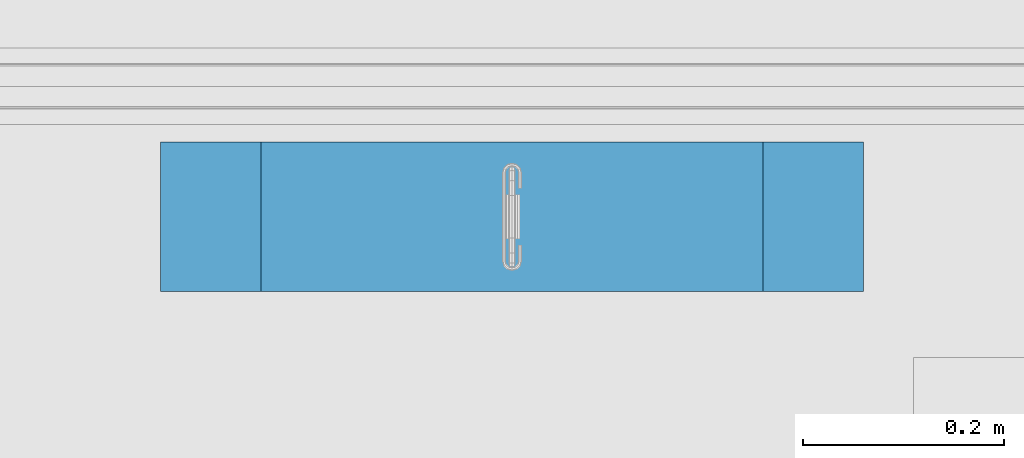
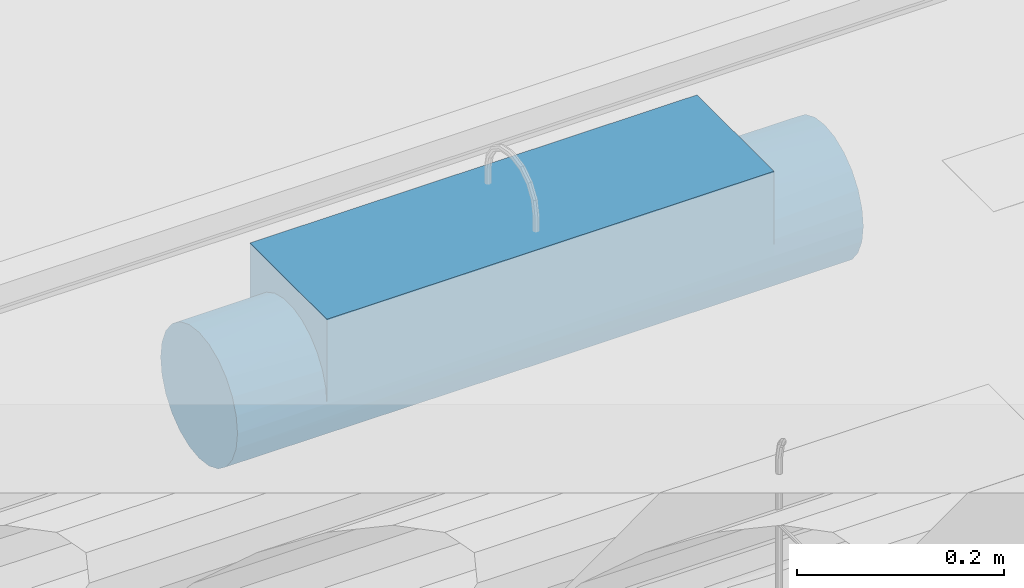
# One storey, part 198 of 230: 1 beam.
"""IFC4X3_ADD2 building model written with IfcOpenShell, lengths in millimetres."""

from ifc_helpers import new_model, si_unit, direction, origin_with_axes, place, context, subcontext, project, spatial, polygons, element, save


model = new_model("IFC4X3_ADD2")

# Units and contexts
model_context = context("Model", 3, precision=1e-05, world=origin_with_axes(), true_north=direction((0.0, 1.0)))
body_context = subcontext(model_context, "Body", "Model", "MODEL_VIEW")
ifc_project = project(units=[si_unit("LENGTHUNIT", "METRE", prefix="MILLI"), si_unit("AREAUNIT", "SQUARE_METRE"), si_unit("VOLUMEUNIT", "CUBIC_METRE"), si_unit("PLANEANGLEUNIT", "RADIAN"), si_unit("TIMEUNIT", "SECOND"), si_unit("MASSUNIT", "GRAM")], contexts=[model_context])

# Site, building, storey
site_placement = place(None, origin_with_axes())
site = spatial("IfcSite", under=ifc_project, at=site_placement, Name="Site", CompositionType="ELEMENT")
building_placement = place(site_placement, origin_with_axes())
building = spatial("IfcBuilding", under=site, at=building_placement, Name="IFC Building Story")
storey_placement = place(building_placement, origin_with_axes())
storey = spatial("IfcBuildingStorey", under=building, at=storey_placement, Name="ETAGE 00 (0)", Elevation=0.0)

# Beam
beam_placement = place(storey_placement, origin_with_axes())
element("IfcBeam", 1, at=beam_placement, inside=storey, Name="ES44", ObjectType="500*149", context=body_context, shape_type="Tessellation", body=[
    polygons([(38451.189, 14491.96237108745, 4119.282015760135), (38551.189, 14492.33606303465, 4117.829011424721), (38451.189, 14494.50089702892, 4099.999996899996), (38451.189, 14484.51978961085, 4137.249996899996), (38551.189, 14485.96737190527, 4134.621871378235), (38551.189, 14462.32172160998, 4161.312294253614), (38451.189, 14472.68035222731, 4152.679452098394), (38451.189, 14457.25089702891, 4164.518889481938), (38551.189, 14446.4189617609, 4169.658706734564), (38451.189, 14439.28291588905, 4171.961470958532), (38551.189, 14475.76494883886, 4149.402633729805), (38551.189, 14494.50089702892, 4099.999993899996), (38551.189, 14428.98087993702, 4173.956807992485), (38451.189, 14420.00089702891, 4174.499996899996), (38551.189, 14411.02091412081, 4173.956807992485), (38451.189, 14400.71887816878, 4171.961470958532), (38451.189, 14382.75089702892, 4164.518889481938), (38551.189, 14393.58283229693, 4169.658706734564), (38451.189, 14355.48200444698, 4137.249996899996), (38451.189, 14348.03942297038, 4119.282015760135), (38551.189, 14354.03442215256, 4134.621871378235), (38551.189, 14364.23684521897, 4149.402633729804), (38451.189, 14367.32144183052, 4152.679452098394), (38551.189, 14377.68007244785, 4161.312294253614), (38551.189, 14347.66573102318, 4117.829011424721), (38451.189, 14345.50089702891, 4099.999996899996), (38551.189, 14345.50089702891, 4099.999993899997), (38551.189, 14494.50089702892, 4199.999993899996), (38551.189, 14345.50089702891, 4199.999993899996), (39051.189, 14345.50089702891, 4199.999993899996), (39051.189, 14494.50089702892, 4199.999993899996), (39051.189, 14345.50089702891, 4099.999993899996), (39051.189, 14347.66573102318, 4117.829011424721), (39051.189, 14354.03442215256, 4134.621871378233), (39051.189, 14364.23684521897, 4149.402633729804), (39051.189, 14377.68007244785, 4161.312294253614), (39051.189, 14393.58283229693, 4169.658706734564), (39051.189, 14411.02091412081, 4173.956807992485), (39051.189, 14428.98087993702, 4173.956807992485), (39051.189, 14446.4189617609, 4169.658706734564), (39051.189, 14462.32172160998, 4161.312294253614), (39051.189, 14475.76494883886, 4149.402633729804), (39051.189, 14485.96737190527, 4134.621871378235), (39051.189, 14492.33606303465, 4117.829011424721), (39051.189, 14494.50089702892, 4099.999993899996), (39151.189, 14355.48200444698, 4062.749996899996), (39151.189, 14367.32144183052, 4047.320541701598), (39151.189, 14382.75089702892, 4035.481104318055), (39151.189, 14400.71887816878, 4028.038522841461), (39151.189, 14420.00089702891, 4025.499996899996), (39151.189, 14439.28291588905, 4028.038522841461), (39151.189, 14457.25089702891, 4035.481104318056), (39151.189, 14472.68035222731, 4047.320541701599), (39151.189, 14484.51978961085, 4062.749996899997), (39151.189, 14491.96237108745, 4080.717978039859), (39151.189, 14494.50089702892, 4099.999996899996), (39151.189, 14491.96237108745, 4119.282015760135), (39151.189, 14484.51978961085, 4137.249996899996), (39151.189, 14472.68035222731, 4152.679452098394), (39151.189, 14457.25089702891, 4164.518889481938), (39151.189, 14439.28291588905, 4171.961470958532), (39151.189, 14420.00089702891, 4174.499996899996), (39151.189, 14400.71887816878, 4171.961470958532), (39151.189, 14382.75089702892, 4164.518889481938), (39151.189, 14367.32144183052, 4152.679452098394), (39151.189, 14355.48200444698, 4137.249996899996), (39151.189, 14348.03942297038, 4119.282015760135), (39151.189, 14345.50089702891, 4099.999996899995), (39151.189, 14348.03942297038, 4080.717978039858), (38451.189, 14484.51978961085, 4062.749996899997), (38451.189, 14472.68035222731, 4047.320541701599), (38451.189, 14457.25089702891, 4035.481104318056), (38451.189, 14439.28291588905, 4028.038522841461), (38451.189, 14420.00089702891, 4025.499996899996), (38451.189, 14400.71887816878, 4028.038522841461), (38451.189, 14382.75089702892, 4035.481104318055), (38451.189, 14367.32144183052, 4047.320541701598), (38451.189, 14355.48200444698, 4062.749996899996), (38451.189, 14348.03942297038, 4080.717978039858), (38451.189, 14491.96237108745, 4080.717978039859), (38801.189, 14351.1718718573, 4071.490081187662), (38801.189, 14391.49098131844, 4031.170971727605), (38801.189, 14374.64817056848, 4040.895173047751), (38801.189, 14360.89607317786, 4054.647270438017), (38801.189, 14410.27669570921, 4026.137354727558), (38801.189, 14346.6842439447, 4086.774325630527), (38801.189, 14429.72509835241, 4026.137354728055), (38801.189, 14448.51081274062, 4031.170971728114), (38801.189, 14493.31755011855, 4086.774325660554), (38801.189, 14465.35362349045, 4040.895173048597), (38801.189, 14479.10572088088, 4054.647270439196), (38801.189, 14488.82992220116, 4071.490081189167)], [[[1, 2, 3]], [[4, 5, 1]], [[6, 7, 8]], [[9, 8, 10]], [[7, 11, 4]], [[1, 5, 2]], [[2, 12, 3]], [[6, 11, 7]], [[9, 6, 8]], [[10, 13, 9]], [[11, 5, 4]], [[10, 14, 13]], [[15, 14, 16]], [[17, 18, 16]], [[19, 20, 21]], [[22, 23, 19]], [[24, 17, 23]], [[25, 20, 26]], [[16, 18, 15]], [[17, 24, 18]], [[23, 22, 24]], [[19, 21, 22]], [[25, 21, 20]], [[26, 27, 25]], [[14, 15, 13]], [[28, 29, 30, 31]], [[44, 45, 31]], [[31, 43, 44]], [[31, 42, 43]], [[31, 41, 42]], [[31, 40, 41]], [[31, 39, 40]], [[31, 30, 38]], [[31, 38, 39]], [[30, 37, 38]], [[30, 36, 37]], [[30, 35, 36]], [[30, 34, 35]], [[30, 33, 34]], [[30, 32, 33]], [[28, 31, 45, 12]], [[25, 27, 29]], [[29, 21, 25]], [[29, 22, 21]], [[29, 24, 22]], [[29, 18, 24]], [[29, 15, 18]], [[29, 28, 13]], [[29, 13, 15]], [[28, 9, 13]], [[28, 6, 9]], [[28, 11, 6]], [[28, 5, 11]], [[28, 2, 5]], [[28, 12, 2]], [[30, 29, 27, 32]], [[46, 47, 48]], [[46, 48, 49]], [[46, 49, 50]], [[46, 50, 51]], [[46, 51, 52]], [[46, 52, 53]], [[46, 53, 54]], [[46, 54, 55]], [[46, 55, 56]], [[46, 56, 57]], [[46, 57, 58]], [[46, 58, 59]], [[46, 59, 60]], [[46, 60, 61]], [[46, 61, 62]], [[46, 62, 63]], [[46, 63, 64]], [[46, 64, 65]], [[46, 65, 66]], [[46, 66, 67]], [[46, 67, 68]], [[46, 68, 69]], [[70, 71, 72]], [[70, 72, 73]], [[70, 73, 74]], [[70, 74, 75]], [[70, 75, 76]], [[70, 76, 77]], [[70, 77, 78]], [[70, 78, 79]], [[70, 79, 26]], [[70, 26, 20]], [[70, 20, 19]], [[70, 19, 23]], [[70, 23, 17]], [[70, 17, 16]], [[70, 16, 14]], [[70, 14, 10]], [[70, 10, 8]], [[70, 8, 7]], [[70, 7, 4]], [[70, 4, 1]], [[70, 1, 3]], [[70, 3, 80]], [[43, 57, 44]], [[42, 58, 43]], [[40, 60, 41]], [[42, 41, 59]], [[61, 40, 39]], [[44, 56, 45]], [[44, 57, 56]], [[58, 42, 59]], [[41, 60, 59]], [[57, 43, 58]], [[40, 61, 60]], [[39, 62, 61]], [[37, 36, 64]], [[38, 37, 63]], [[35, 34, 66]], [[33, 32, 68]], [[34, 33, 67]], [[36, 35, 65]], [[37, 64, 63]], [[63, 62, 38]], [[64, 36, 65]], [[35, 66, 65]], [[67, 66, 34]], [[67, 33, 68]], [[38, 62, 39]], [[27, 26, 79]], [[78, 81, 79]], [[76, 75, 82]], [[83, 77, 76]], [[84, 78, 77]], [[85, 75, 74]], [[27, 86, 32]], [[86, 81, 69]], [[84, 83, 47]], [[69, 68, 32]], [[81, 86, 79]], [[83, 76, 82]], [[81, 84, 46]], [[46, 69, 81]], [[82, 85, 49]], [[47, 46, 84]], [[47, 83, 48]], [[85, 74, 87]], [[49, 48, 82]], [[84, 77, 83]], [[50, 49, 85]], [[83, 82, 48]], [[72, 88, 73]], [[12, 89, 80]], [[27, 79, 86]], [[71, 90, 72]], [[80, 3, 12]], [[87, 50, 85]], [[71, 70, 91]], [[80, 92, 70]], [[82, 75, 85]], [[88, 87, 73]], [[32, 86, 69]], [[89, 12, 45]], [[87, 88, 51]], [[88, 52, 51]], [[88, 90, 52]], [[52, 90, 53]], [[51, 50, 87]], [[90, 71, 91]], [[55, 54, 92]], [[53, 91, 54]], [[92, 80, 89]], [[56, 55, 45]], [[81, 78, 84]], [[90, 91, 53]], [[55, 92, 89]], [[91, 70, 92]], [[91, 92, 54]], [[87, 74, 73]], [[45, 55, 89]], [[88, 72, 90]]]),
])

save(model, "model.ifc")
